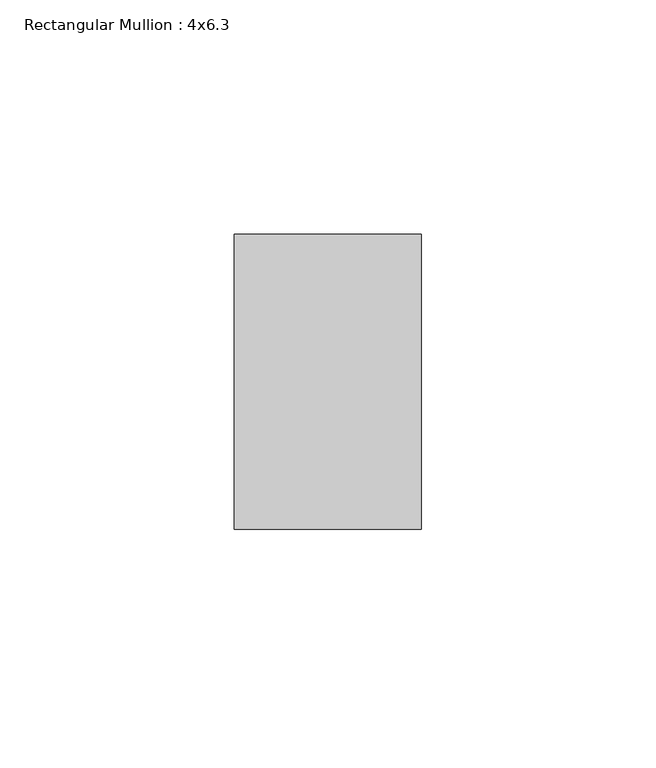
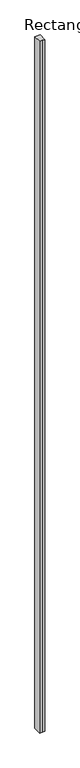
"""IFC4 building model written with IfcOpenShell, lengths in millimetres: member geometry, Rectangular Mullion : 4x6.3."""

from ifc_helpers import new_model, si_unit, frame, origin, place, context, project, spatial, polyline, outline, extrude, source, transform, mapped, element, save


def rectangular_mullion_4x6_3_1e94c959(model_context):
    return source(origin(), model_context, "Body", "SweptSolid", [
        extrude(outline(polyline([(-20.0, 20.0), (-20.0, 83.0), (20.0, 83.0), (20.0, 20.0), (0.0, 20.0), (-20.0, 20.0)])), frame((0.0, 0.0, -5653.8806617), z_axis=(0.0, 0.0, 1.0), x_axis=(1.0, 0.0, 0.0)), (0.0, 0.0, 1.0), 5653.8806617),
    ])


if __name__ == "__main__":
    model = new_model("IFC4")
    model_context = context("Model", 3, world=origin())
    ifc_project = project(units=[si_unit("LENGTHUNIT", "METRE", prefix="MILLI")], contexts=[model_context])
    site = spatial("IfcSite", under=ifc_project)
    building = spatial("IfcBuilding", under=site)
    placement = place(None, origin())
    rectangular_mullion_4x6_3_shape = rectangular_mullion_4x6_3_1e94c959(model_context)
    element("IfcMember", 1, ObjectType="Rectangular Mullion : 4x6.3", at=placement, inside=building, context=model_context, shape_type="MappedRepresentation", body=[
        mapped(rectangular_mullion_4x6_3_shape, transform((0.0, 0.0, 0.0), x_axis=(1.0, 0.0, 0.0), y_axis=(0.0, 1.0, 0.0), z_axis=(0.0, 0.0, 1.0))),
    ])
    save(model, "model.ifc")
